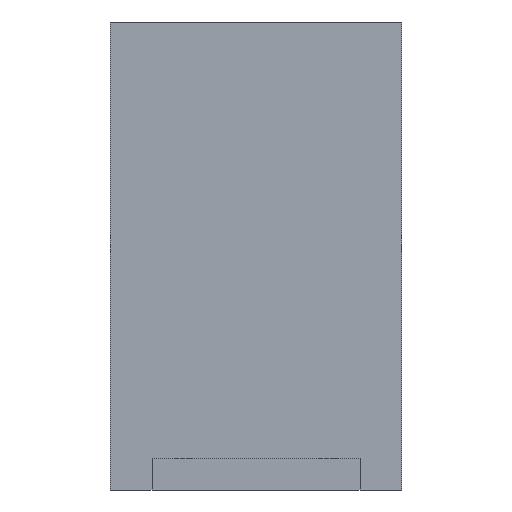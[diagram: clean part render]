
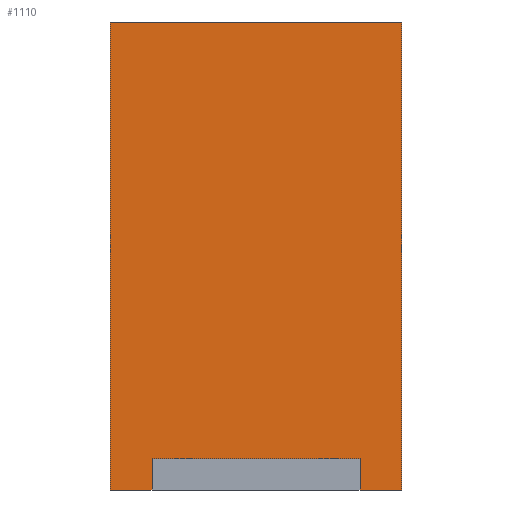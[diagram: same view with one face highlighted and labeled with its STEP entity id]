
A CAD part, left-side view. The second image highlights one B-rep face of the part: STEP entity #1110.
In plain terms, the highlighted planar face has unit normal (-1, 0, 0).
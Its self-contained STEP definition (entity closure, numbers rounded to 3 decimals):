
#32 = PLANE('',#33);
#33 = AXIS2_PLACEMENT_3D('',#34,#35,#36);
#34 = CARTESIAN_POINT('',(-60.,-28.,74.));
#35 = DIRECTION('',(0.,0.,1.));
#36 = DIRECTION('',(1.,0.,0.));
#85 = VERTEX_POINT('',#86);
#86 = CARTESIAN_POINT('',(-45.,20.,74.));
#100 = PLANE('',#101);
#101 = AXIS2_PLACEMENT_3D('',#102,#103,#104);
#102 = CARTESIAN_POINT('',(-45.,20.,74.));
#103 = DIRECTION('',(0.,1.,0.));
#104 = DIRECTION('',(0.,0.,1.));
#112 = EDGE_CURVE('',#113,#85,#115,.T.);
#113 = VERTEX_POINT('',#114);
#114 = CARTESIAN_POINT('',(-45.,12.,74.));
#115 = SURFACE_CURVE('',#116,(#120,#127),.PCURVE_S1.);
#116 = LINE('',#117,#118);
#117 = CARTESIAN_POINT('',(-45.,-36.,74.));
#118 = VECTOR('',#119,1.);
#119 = DIRECTION('',(0.,1.,0.));
#120 = PCURVE('',#32,#121);
#121 = DEFINITIONAL_REPRESENTATION('',(#122),#126);
#122 = LINE('',#123,#124);
#123 = CARTESIAN_POINT('',(15.,-8.));
#124 = VECTOR('',#125,1.);
#125 = DIRECTION('',(0.,1.));
#126 = ( GEOMETRIC_REPRESENTATION_CONTEXT(2) 
PARAMETRIC_REPRESENTATION_CONTEXT() REPRESENTATION_CONTEXT('2D SPACE',''
  ) );
#127 = PCURVE('',#128,#133);
#128 = PLANE('',#129);
#129 = AXIS2_PLACEMENT_3D('',#130,#131,#132);
#130 = CARTESIAN_POINT('',(-45.,-36.,74.));
#131 = DIRECTION('',(1.,0.,0.));
#132 = DIRECTION('',(0.,0.,1.));
#133 = DEFINITIONAL_REPRESENTATION('',(#134),#138);
#134 = LINE('',#135,#136);
#135 = CARTESIAN_POINT('',(0.,0.));
#136 = VECTOR('',#137,1.);
#137 = DIRECTION('',(0.,-1.));
#138 = ( GEOMETRIC_REPRESENTATION_CONTEXT(2) 
PARAMETRIC_REPRESENTATION_CONTEXT() REPRESENTATION_CONTEXT('2D SPACE',''
  ) );
#156 = PLANE('',#157);
#157 = AXIS2_PLACEMENT_3D('',#158,#159,#160);
#158 = CARTESIAN_POINT('',(-60.,12.,74.));
#159 = DIRECTION('',(0.,1.,0.));
#160 = DIRECTION('',(0.,0.,1.));
#197 = VERTEX_POINT('',#198);
#198 = CARTESIAN_POINT('',(-45.,-28.,74.));
#212 = PLANE('',#213);
#213 = AXIS2_PLACEMENT_3D('',#214,#215,#216);
#214 = CARTESIAN_POINT('',(-60.,-28.,74.));
#215 = DIRECTION('',(0.,1.,0.));
#216 = DIRECTION('',(0.,0.,1.));
#224 = EDGE_CURVE('',#225,#197,#227,.T.);
#225 = VERTEX_POINT('',#226);
#226 = CARTESIAN_POINT('',(-45.,-36.,74.));
#227 = SURFACE_CURVE('',#228,(#232,#239),.PCURVE_S1.);
#228 = LINE('',#229,#230);
#229 = CARTESIAN_POINT('',(-45.,-36.,74.));
#230 = VECTOR('',#231,1.);
#231 = DIRECTION('',(0.,1.,0.));
#232 = PCURVE('',#32,#233);
#233 = DEFINITIONAL_REPRESENTATION('',(#234),#238);
#234 = LINE('',#235,#236);
#235 = CARTESIAN_POINT('',(15.,-8.));
#236 = VECTOR('',#237,1.);
#237 = DIRECTION('',(0.,1.));
#238 = ( GEOMETRIC_REPRESENTATION_CONTEXT(2) 
PARAMETRIC_REPRESENTATION_CONTEXT() REPRESENTATION_CONTEXT('2D SPACE',''
  ) );
#239 = PCURVE('',#128,#240);
#240 = DEFINITIONAL_REPRESENTATION('',(#241),#245);
#241 = LINE('',#242,#243);
#242 = CARTESIAN_POINT('',(0.,0.));
#243 = VECTOR('',#244,1.);
#244 = DIRECTION('',(0.,-1.));
#245 = ( GEOMETRIC_REPRESENTATION_CONTEXT(2) 
PARAMETRIC_REPRESENTATION_CONTEXT() REPRESENTATION_CONTEXT('2D SPACE',''
  ) );
#263 = PLANE('',#264);
#264 = AXIS2_PLACEMENT_3D('',#265,#266,#267);
#265 = CARTESIAN_POINT('',(-45.,-36.,74.));
#266 = DIRECTION('',(0.,1.,0.));
#267 = DIRECTION('',(0.,0.,1.));
#677 = PLANE('',#678);
#678 = AXIS2_PLACEMENT_3D('',#679,#680,#681);
#679 = CARTESIAN_POINT('',(-45.,-36.,164.));
#680 = DIRECTION('',(0.,0.,1.));
#681 = DIRECTION('',(1.,0.,0.));
#827 = EDGE_CURVE('',#85,#828,#830,.T.);
#828 = VERTEX_POINT('',#829);
#829 = CARTESIAN_POINT('',(-45.,20.,164.));
#830 = SURFACE_CURVE('',#831,(#835,#842),.PCURVE_S1.);
#831 = LINE('',#832,#833);
#832 = CARTESIAN_POINT('',(-45.,20.,74.));
#833 = VECTOR('',#834,1.);
#834 = DIRECTION('',(0.,0.,1.));
#835 = PCURVE('',#100,#836);
#836 = DEFINITIONAL_REPRESENTATION('',(#837),#841);
#837 = LINE('',#838,#839);
#838 = CARTESIAN_POINT('',(0.,0.));
#839 = VECTOR('',#840,1.);
#840 = DIRECTION('',(1.,0.));
#841 = ( GEOMETRIC_REPRESENTATION_CONTEXT(2) 
PARAMETRIC_REPRESENTATION_CONTEXT() REPRESENTATION_CONTEXT('2D SPACE',''
  ) );
#842 = PCURVE('',#128,#843);
#843 = DEFINITIONAL_REPRESENTATION('',(#844),#848);
#844 = LINE('',#845,#846);
#845 = CARTESIAN_POINT('',(0.,-56.));
#846 = VECTOR('',#847,1.);
#847 = DIRECTION('',(1.,0.));
#848 = ( GEOMETRIC_REPRESENTATION_CONTEXT(2) 
PARAMETRIC_REPRESENTATION_CONTEXT() REPRESENTATION_CONTEXT('2D SPACE',''
  ) );
#1110 = ADVANCED_FACE('',(#1111),#128,.F.);
#1111 = FACE_BOUND('',#1112,.F.);
#1112 = EDGE_LOOP('',(#1113,#1136,#1157,#1158,#1179,#1205,#1224,#1225));
#1113 = ORIENTED_EDGE('',*,*,#1114,.F.);
#1114 = EDGE_CURVE('',#1115,#828,#1117,.T.);
#1115 = VERTEX_POINT('',#1116);
#1116 = CARTESIAN_POINT('',(-45.,-36.,164.));
#1117 = SURFACE_CURVE('',#1118,(#1122,#1129),.PCURVE_S1.);
#1118 = LINE('',#1119,#1120);
#1119 = CARTESIAN_POINT('',(-45.,-36.,164.));
#1120 = VECTOR('',#1121,1.);
#1121 = DIRECTION('',(0.,1.,0.));
#1122 = PCURVE('',#128,#1123);
#1123 = DEFINITIONAL_REPRESENTATION('',(#1124),#1128);
#1124 = LINE('',#1125,#1126);
#1125 = CARTESIAN_POINT('',(90.,0.));
#1126 = VECTOR('',#1127,1.);
#1127 = DIRECTION('',(0.,-1.));
#1128 = ( GEOMETRIC_REPRESENTATION_CONTEXT(2) 
PARAMETRIC_REPRESENTATION_CONTEXT() REPRESENTATION_CONTEXT('2D SPACE',''
  ) );
#1129 = PCURVE('',#677,#1130);
#1130 = DEFINITIONAL_REPRESENTATION('',(#1131),#1135);
#1131 = LINE('',#1132,#1133);
#1132 = CARTESIAN_POINT('',(0.,0.));
#1133 = VECTOR('',#1134,1.);
#1134 = DIRECTION('',(0.,1.));
#1135 = ( GEOMETRIC_REPRESENTATION_CONTEXT(2) 
PARAMETRIC_REPRESENTATION_CONTEXT() REPRESENTATION_CONTEXT('2D SPACE',''
  ) );
#1136 = ORIENTED_EDGE('',*,*,#1137,.F.);
#1137 = EDGE_CURVE('',#225,#1115,#1138,.T.);
#1138 = SURFACE_CURVE('',#1139,(#1143,#1150),.PCURVE_S1.);
#1139 = LINE('',#1140,#1141);
#1140 = CARTESIAN_POINT('',(-45.,-36.,74.));
#1141 = VECTOR('',#1142,1.);
#1142 = DIRECTION('',(0.,0.,1.));
#1143 = PCURVE('',#128,#1144);
#1144 = DEFINITIONAL_REPRESENTATION('',(#1145),#1149);
#1145 = LINE('',#1146,#1147);
#1146 = CARTESIAN_POINT('',(0.,0.));
#1147 = VECTOR('',#1148,1.);
#1148 = DIRECTION('',(1.,0.));
#1149 = ( GEOMETRIC_REPRESENTATION_CONTEXT(2) 
PARAMETRIC_REPRESENTATION_CONTEXT() REPRESENTATION_CONTEXT('2D SPACE',''
  ) );
#1150 = PCURVE('',#263,#1151);
#1151 = DEFINITIONAL_REPRESENTATION('',(#1152),#1156);
#1152 = LINE('',#1153,#1154);
#1153 = CARTESIAN_POINT('',(0.,0.));
#1154 = VECTOR('',#1155,1.);
#1155 = DIRECTION('',(1.,0.));
#1156 = ( GEOMETRIC_REPRESENTATION_CONTEXT(2) 
PARAMETRIC_REPRESENTATION_CONTEXT() REPRESENTATION_CONTEXT('2D SPACE',''
  ) );
#1157 = ORIENTED_EDGE('',*,*,#224,.T.);
#1158 = ORIENTED_EDGE('',*,*,#1159,.T.);
#1159 = EDGE_CURVE('',#197,#1160,#1162,.T.);
#1160 = VERTEX_POINT('',#1161);
#1161 = CARTESIAN_POINT('',(-45.,-28.,80.));
#1162 = SURFACE_CURVE('',#1163,(#1167,#1173),.PCURVE_S1.);
#1163 = LINE('',#1164,#1165);
#1164 = CARTESIAN_POINT('',(-45.,-28.,74.));
#1165 = VECTOR('',#1166,1.);
#1166 = DIRECTION('',(0.,0.,1.));
#1167 = PCURVE('',#128,#1168);
#1168 = DEFINITIONAL_REPRESENTATION('',(#1169),#1172);
#1169 = B_SPLINE_CURVE_WITH_KNOTS('',1,(#1170,#1171),.UNSPECIFIED.,.F.,
  .F.,(2,2),(0.,6.),.PIECEWISE_BEZIER_KNOTS.);
#1170 = CARTESIAN_POINT('',(0.,-8.));
#1171 = CARTESIAN_POINT('',(6.,-8.));
#1172 = ( GEOMETRIC_REPRESENTATION_CONTEXT(2) 
PARAMETRIC_REPRESENTATION_CONTEXT() REPRESENTATION_CONTEXT('2D SPACE',''
  ) );
#1173 = PCURVE('',#212,#1174);
#1174 = DEFINITIONAL_REPRESENTATION('',(#1175),#1178);
#1175 = B_SPLINE_CURVE_WITH_KNOTS('',1,(#1176,#1177),.UNSPECIFIED.,.F.,
  .F.,(2,2),(0.,6.),.PIECEWISE_BEZIER_KNOTS.);
#1176 = CARTESIAN_POINT('',(0.,15.));
#1177 = CARTESIAN_POINT('',(6.,15.));
#1178 = ( GEOMETRIC_REPRESENTATION_CONTEXT(2) 
PARAMETRIC_REPRESENTATION_CONTEXT() REPRESENTATION_CONTEXT('2D SPACE',''
  ) );
#1179 = ORIENTED_EDGE('',*,*,#1180,.F.);
#1180 = EDGE_CURVE('',#1181,#1160,#1183,.T.);
#1181 = VERTEX_POINT('',#1182);
#1182 = CARTESIAN_POINT('',(-45.,12.,80.));
#1183 = SURFACE_CURVE('',#1184,(#1188,#1194),.PCURVE_S1.);
#1184 = LINE('',#1185,#1186);
#1185 = CARTESIAN_POINT('',(-45.,-32.,80.));
#1186 = VECTOR('',#1187,1.);
#1187 = DIRECTION('',(0.,-1.,0.));
#1188 = PCURVE('',#128,#1189);
#1189 = DEFINITIONAL_REPRESENTATION('',(#1190),#1193);
#1190 = B_SPLINE_CURVE_WITH_KNOTS('',1,(#1191,#1192),.UNSPECIFIED.,.F.,
  .F.,(2,2),(-44.,-4.),.PIECEWISE_BEZIER_KNOTS.);
#1191 = CARTESIAN_POINT('',(6.,-48.));
#1192 = CARTESIAN_POINT('',(6.,-8.));
#1193 = ( GEOMETRIC_REPRESENTATION_CONTEXT(2) 
PARAMETRIC_REPRESENTATION_CONTEXT() REPRESENTATION_CONTEXT('2D SPACE',''
  ) );
#1194 = PCURVE('',#1195,#1200);
#1195 = PLANE('',#1196);
#1196 = AXIS2_PLACEMENT_3D('',#1197,#1198,#1199);
#1197 = CARTESIAN_POINT('',(-60.,-28.,80.));
#1198 = DIRECTION('',(0.,0.,1.));
#1199 = DIRECTION('',(1.,0.,0.));
#1200 = DEFINITIONAL_REPRESENTATION('',(#1201),#1204);
#1201 = B_SPLINE_CURVE_WITH_KNOTS('',1,(#1202,#1203),.UNSPECIFIED.,.F.,
  .F.,(2,2),(-44.,-4.),.PIECEWISE_BEZIER_KNOTS.);
#1202 = CARTESIAN_POINT('',(15.,40.));
#1203 = CARTESIAN_POINT('',(15.,0.));
#1204 = ( GEOMETRIC_REPRESENTATION_CONTEXT(2) 
PARAMETRIC_REPRESENTATION_CONTEXT() REPRESENTATION_CONTEXT('2D SPACE',''
  ) );
#1205 = ORIENTED_EDGE('',*,*,#1206,.F.);
#1206 = EDGE_CURVE('',#113,#1181,#1207,.T.);
#1207 = SURFACE_CURVE('',#1208,(#1212,#1218),.PCURVE_S1.);
#1208 = LINE('',#1209,#1210);
#1209 = CARTESIAN_POINT('',(-45.,12.,74.));
#1210 = VECTOR('',#1211,1.);
#1211 = DIRECTION('',(0.,0.,1.));
#1212 = PCURVE('',#128,#1213);
#1213 = DEFINITIONAL_REPRESENTATION('',(#1214),#1217);
#1214 = B_SPLINE_CURVE_WITH_KNOTS('',1,(#1215,#1216),.UNSPECIFIED.,.F.,
  .F.,(2,2),(0.,6.),.PIECEWISE_BEZIER_KNOTS.);
#1215 = CARTESIAN_POINT('',(0.,-48.));
#1216 = CARTESIAN_POINT('',(6.,-48.));
#1217 = ( GEOMETRIC_REPRESENTATION_CONTEXT(2) 
PARAMETRIC_REPRESENTATION_CONTEXT() REPRESENTATION_CONTEXT('2D SPACE',''
  ) );
#1218 = PCURVE('',#156,#1219);
#1219 = DEFINITIONAL_REPRESENTATION('',(#1220),#1223);
#1220 = B_SPLINE_CURVE_WITH_KNOTS('',1,(#1221,#1222),.UNSPECIFIED.,.F.,
  .F.,(2,2),(0.,6.),.PIECEWISE_BEZIER_KNOTS.);
#1221 = CARTESIAN_POINT('',(0.,15.));
#1222 = CARTESIAN_POINT('',(6.,15.));
#1223 = ( GEOMETRIC_REPRESENTATION_CONTEXT(2) 
PARAMETRIC_REPRESENTATION_CONTEXT() REPRESENTATION_CONTEXT('2D SPACE',''
  ) );
#1224 = ORIENTED_EDGE('',*,*,#112,.T.);
#1225 = ORIENTED_EDGE('',*,*,#827,.T.);
